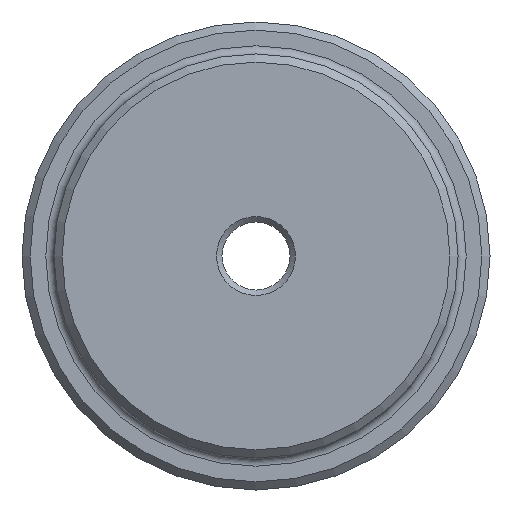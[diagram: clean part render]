
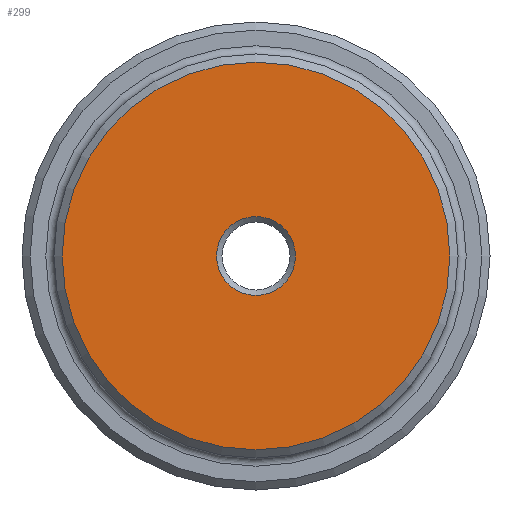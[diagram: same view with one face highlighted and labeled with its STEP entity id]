
A CAD part, left-side view. The second image highlights one B-rep face of the part: STEP entity #299.
In plain terms, the highlighted planar face has unit normal (-1, 0, 0).
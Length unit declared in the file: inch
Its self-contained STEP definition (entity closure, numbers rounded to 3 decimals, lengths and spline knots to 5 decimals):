
#160 = DIRECTION ( 'NONE',  ( 1., 0., 0. ) ) ;
#296 = CIRCLE ( 'NONE', #1162, 1.425 ) ;
#297 = ORIENTED_EDGE ( 'NONE', *, *, #667, .T. ) ;
#299 = ADVANCED_FACE ( 'NONE', ( #1244, #1363 ), #1427, .F. ) ;
#396 = DIRECTION ( 'NONE',  ( -1., 0., 0. ) ) ;
#478 = CARTESIAN_POINT ( 'NONE',  ( 0., 0., 0. ) ) ;
#491 = DIRECTION ( 'NONE',  ( 0., 0., -1. ) ) ;
#495 = CIRCLE ( 'NONE', #1151, 0.29015 ) ;
#505 = EDGE_CURVE ( 'NONE', #529, #529, #296, .T. ) ;
#523 = CARTESIAN_POINT ( 'NONE',  ( 0., 0., 0. ) ) ;
#529 = VERTEX_POINT ( 'NONE', #1014 ) ;
#560 = AXIS2_PLACEMENT_3D ( 'NONE', #1813, #160, #491 ) ;
#631 = CARTESIAN_POINT ( 'NONE',  ( 0., 0., -0.29015 ) ) ;
#667 = EDGE_CURVE ( 'NONE', #726, #726, #495, .T. ) ;
#726 = VERTEX_POINT ( 'NONE', #631 ) ;
#744 = DIRECTION ( 'NONE',  ( 0., 0., -1. ) ) ;
#865 = EDGE_LOOP ( 'NONE', ( #1587 ) ) ;
#1014 = CARTESIAN_POINT ( 'NONE',  ( 0., 0., -1.425 ) ) ;
#1138 = EDGE_LOOP ( 'NONE', ( #297 ) ) ;
#1151 = AXIS2_PLACEMENT_3D ( 'NONE', #478, #1766, #1293 ) ;
#1162 = AXIS2_PLACEMENT_3D ( 'NONE', #523, #396, #744 ) ;
#1244 = FACE_BOUND ( 'NONE', #1138, .T. ) ;
#1293 = DIRECTION ( 'NONE',  ( 0., 0., -1. ) ) ;
#1363 = FACE_OUTER_BOUND ( 'NONE', #865, .T. ) ;
#1427 = PLANE ( 'NONE',  #560 ) ;
#1587 = ORIENTED_EDGE ( 'NONE', *, *, #505, .T. ) ;
#1766 = DIRECTION ( 'NONE',  ( 1., 0., 0. ) ) ;
#1813 = CARTESIAN_POINT ( 'NONE',  ( 0., 0., 0. ) ) ;
